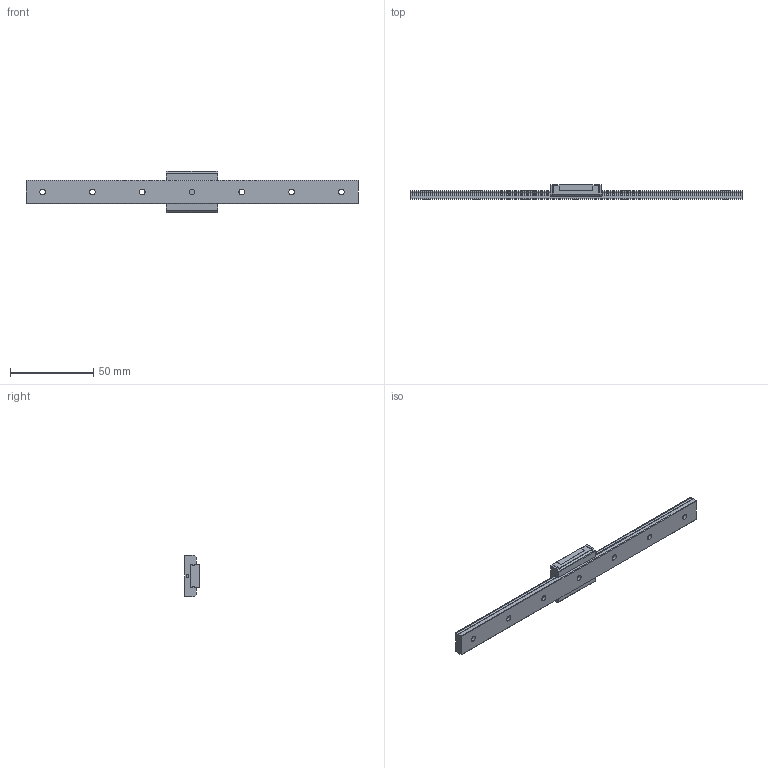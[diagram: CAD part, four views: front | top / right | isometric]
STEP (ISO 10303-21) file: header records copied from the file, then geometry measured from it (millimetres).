
FILE_DESCRIPTION( ( '' ), '1' );
FILE_NAME( 'C:/Users/v3-771-32344/Documents/Website 2016/STEP/SRS7WM1UU20010084.5000.stp', '2016-11-10T13:11:34', ( '' ), ( '' ), ' ', ' ', ' ' );
FILE_SCHEMA( ( 'CONFIG_CONTROL_DESIGN' ) );
Length unit declared in the file: millimetre
Products named in the file (2): 1; 2
Bounding box: 200 x 9 x 25 mm (x, y, z)
Volume: 17336.1 mm3; surface area: 10960.4 mm2
Topology: 2 solids, 2 shells, 149 faces, 392 edges, 252 vertices
Faces by surface type: plane 69, cylinder 64, cone 16
Entity records: 4674 total; most frequent: DIRECTION 822, CARTESIAN_POINT 787, ORIENTED_EDGE 768, EDGE_CURVE 384, AXIS2_PLACEMENT_3D 287, VERTEX_POINT 252, LINE 248, VECTOR 248
